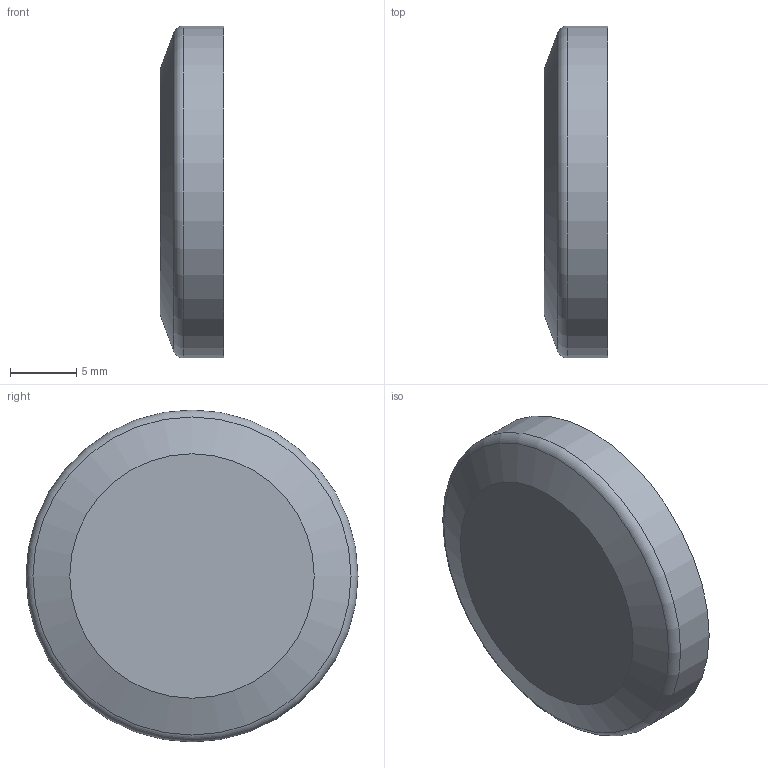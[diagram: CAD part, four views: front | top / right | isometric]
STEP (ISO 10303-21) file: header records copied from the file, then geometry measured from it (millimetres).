
FILE_DESCRIPTION(/* description */ (''),/* implementation_level */ '2;1');
FILE_NAME(/* name */ '12766-Ferrule size-25.stp',/* time_stamp */ '2024-12-27T13:41:55+01:00',/* author */ ('roger.thijssen'),/* organization */ (''),/* preprocessor_version */ 'ST-DEVELOPER v20',/* originating_system */ 'Autodesk Inventor 2025',/* authorisation */ '');
FILE_SCHEMA (('AUTOMOTIVE_DESIGN { 1 0 10303 214 3 1 1 }'));
Length unit declared in the file: millimetre
Products named in the file (1): 12766-Ferrule size-25
Bounding box: 4.8 x 25 x 25 mm (x, y, z)
Volume: 1688.4 mm3; surface area: 1422.6 mm2
Topology: 1 solids, 1 shells, 11 faces, 19 edges, 11 vertices
Faces by surface type: torus 4, plane 3, cone 2, cylinder 2
Full cylindrical faces by diameter (mm): 22.6 x1, 25 x1
Entity records: 331 total; most frequent: DIRECTION 58, CARTESIAN_POINT 42, ORIENTED_EDGE 38, AXIS2_PLACEMENT_3D 27, EDGE_CURVE 19, CIRCLE 15, EDGE_LOOP 12, STYLED_ITEM 12
